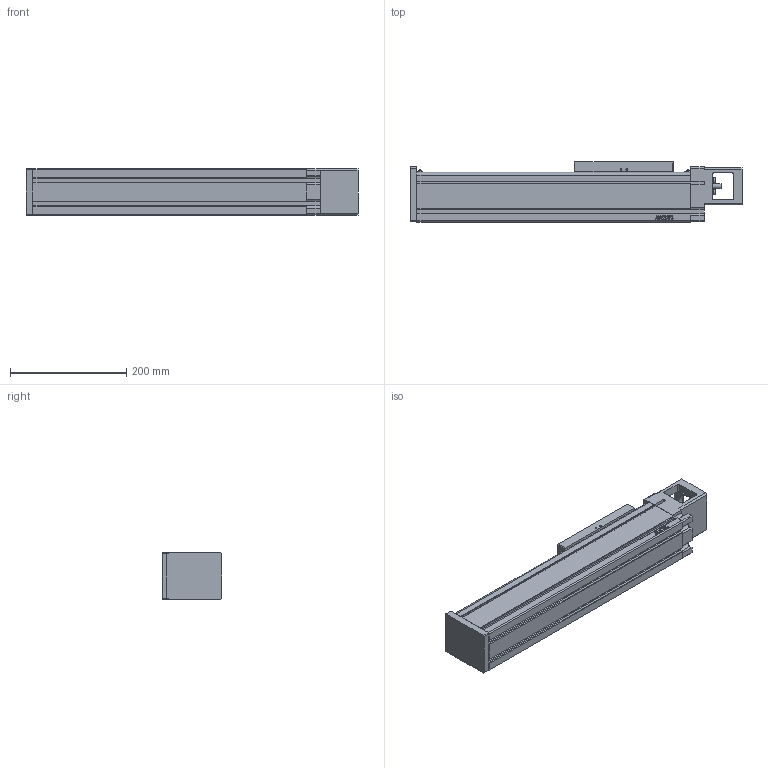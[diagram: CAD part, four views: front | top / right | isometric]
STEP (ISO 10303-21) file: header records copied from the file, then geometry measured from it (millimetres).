
FILE_DESCRIPTION(/* description */ (''),/* implementation_level */ '2;1');
FILE_NAME(/* name */ 'D:\混合母檔20191031\混和母檔\混和母檔\bin\Debug\Download\3D\KU80-5C-250AF0\KU80-5C-250AF0.stp',/* time_stamp */ '2019-11-04T16:51:06+08:00',/* author */ ('user'),/* organization */ (''),/* preprocessor_version */ 'ST-DEVELOPER v16.13',/* originating_system */ 'Autodesk Inventor 2018',/* authorisation */ '');
FILE_SCHEMA (('CONFIG_CONTROL_DESIGN','AUTOMOTIVE_DESIGN { 1 0 10303 214 3 1 1 }','AP242_MANAGED_MODEL_BASED_3D_ENGINEERING_MIM_LF { 1 0 10303 442 1 1 4 }'));
Length unit declared in the file: millimetre
Products named in the file (3): KU80-5C-250AF0; KU80-F0-BP; KU80-SL
Assembly tree (2 placements, depth 2):
  KU80-5C-250AF0
    KU80-F0-BP
    KU80-SL
Bounding box: 570 x 103 x 80 mm (x, y, z)
Volume: 3581603.2 mm3; surface area: 331469.1 mm2
Topology: 2 solids, 10 shells, 862 faces, 2315 edges, 1508 vertices
Faces by surface type: plane 509, bspline 136, cylinder 104, cone 81, torus 28, sphere 4
Full cylindrical faces by diameter (mm): 2.459 x4, 2.729 x4, 3 x4, 3.242 x4, 3.5 x4, 4.134 x16, 5 x4, 5.5 x8, 5.6 x2, 8 x1, 8.5 x4, 12 x1, 46.5 x1
Entity records: 27990 total; most frequent: CARTESIAN_POINT 7413, ORIENTED_EDGE 4362, DIRECTION 3790, EDGE_CURVE 2181, VERTEX_POINT 1469, LINE 1298, VECTOR 1298, AXIS2_PLACEMENT_3D 1246
